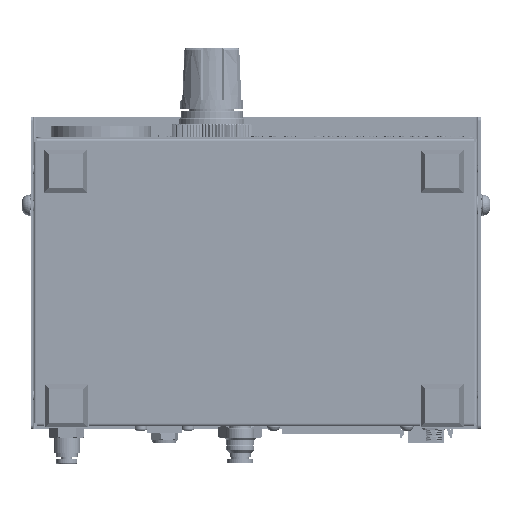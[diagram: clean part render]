
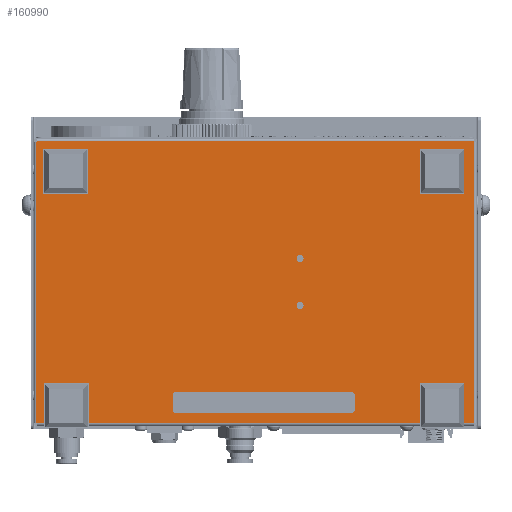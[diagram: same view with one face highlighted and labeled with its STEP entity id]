
A CAD part, front view. The second image highlights one B-rep face of the part: STEP entity #160990.
In plain terms, the highlighted planar face has unit normal (0, -1, 0).
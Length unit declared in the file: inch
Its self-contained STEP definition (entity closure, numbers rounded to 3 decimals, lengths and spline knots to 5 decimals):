
#751 = CARTESIAN_POINT ( 'NONE',  ( 0.64711, -1.19592, 0.39188 ) ) ;
#1124 = VERTEX_POINT ( 'NONE', #696270 ) ;
#4173 = VECTOR ( 'NONE', #156974, 39.37008 ) ;
#4738 = CARTESIAN_POINT ( 'NONE',  ( 0.64711, -1.19592, 0.32938 ) ) ;
#5738 = FACE_BOUND ( 'NONE', #31830, .T. ) ;
#15705 = CIRCLE ( 'NONE', #395931, 0.0625 ) ;
#17024 = LINE ( 'NONE', #697410, #170112 ) ;
#22176 = EDGE_CURVE ( 'NONE', #721568, #147781, #476853, .T. ) ;
#24965 = CARTESIAN_POINT ( 'NONE',  ( 3.74623, -1.19592, 3.25715 ) ) ;
#27795 = CARTESIAN_POINT ( 'NONE',  ( 0.64711, -1.19592, 0.32938 ) ) ;
#31830 = EDGE_LOOP ( 'NONE', ( #681289, #711473 ) ) ;
#33959 = CIRCLE ( 'NONE', #663347, 0.0625 ) ;
#38315 = EDGE_CURVE ( 'NONE', #86220, #77175, #15705, .T. ) ;
#41667 = DIRECTION ( 'NONE',  ( 0., 0., 1. ) ) ;
#43710 = ORIENTED_EDGE ( 'NONE', *, *, #451340, .T. ) ;
#45328 = CARTESIAN_POINT ( 'NONE',  ( 3.75095, -1.19592, 3.25243 ) ) ;
#63464 = DIRECTION ( 'NONE',  ( 0., 0., -1. ) ) ;
#64208 = DIRECTION ( 'NONE',  ( 0., -1., 0. ) ) ;
#71146 = VECTOR ( 'NONE', #110197, 39.37008 ) ;
#77175 = VERTEX_POINT ( 'NONE', #687086 ) ;
#80169 = CARTESIAN_POINT ( 'NONE',  ( 0.64711, -1.19592, 1.16796 ) ) ;
#80724 = AXIS2_PLACEMENT_3D ( 'NONE', #4738, #64208, #681485 ) ;
#86220 = VERTEX_POINT ( 'NONE', #751 ) ;
#106025 = CARTESIAN_POINT ( 'NONE',  ( 3.74623, -1.19592, -1.7704 ) ) ;
#107301 = DIRECTION ( 'NONE',  ( -1., 0., 0. ) ) ;
#110197 = DIRECTION ( 'NONE',  ( -1., 0., 0. ) ) ;
#117886 = CARTESIAN_POINT ( 'NONE',  ( -4.10338, -1.19592, 3.25243 ) ) ;
#122113 = CARTESIAN_POINT ( 'NONE',  ( -4.04747, -1.19592, 3.28471 ) ) ;
#130983 = EDGE_CURVE ( 'NONE', #537953, #654450, #555776, .T. ) ;
#132068 = FACE_BOUND ( 'NONE', #144017, .T. ) ;
#134922 = CARTESIAN_POINT ( 'NONE',  ( -4.10338, -1.19592, 3.25243 ) ) ;
#138595 = DIRECTION ( 'NONE',  ( 0., 0., -1. ) ) ;
#144017 = EDGE_LOOP ( 'NONE', ( #221788, #293353 ) ) ;
#147532 = CARTESIAN_POINT ( 'NONE',  ( 3.74623, -1.19592, 3.28471 ) ) ;
#147781 = VERTEX_POINT ( 'NONE', #452590 ) ;
#153469 = AXIS2_PLACEMENT_3D ( 'NONE', #232606, #414675, #292188 ) ;
#156974 = DIRECTION ( 'NONE',  ( 0., 0., -1. ) ) ;
#160990 = ADVANCED_FACE ( 'NONE', ( #132068, #5738, #299515 ), #578075, .T. ) ;
#163037 = CARTESIAN_POINT ( 'NONE',  ( -4.04747, -1.19592, 3.25715 ) ) ;
#166952 = CARTESIAN_POINT ( 'NONE',  ( -4.04747, -1.19592, -1.7704 ) ) ;
#170112 = VECTOR ( 'NONE', #422258, 39.37008 ) ;
#170197 = EDGE_CURVE ( 'NONE', #591017, #232369, #459794, .T. ) ;
#171121 = EDGE_CURVE ( 'NONE', #452400, #224200, #713570, .T. ) ;
#175143 = CARTESIAN_POINT ( 'NONE',  ( -4.04747, -1.19592, 3.25715 ) ) ;
#182371 = DIRECTION ( 'NONE',  ( 0., -1., 0. ) ) ;
#198022 = CARTESIAN_POINT ( 'NONE',  ( 3.75095, -1.19592, 3.25243 ) ) ;
#204287 = VERTEX_POINT ( 'NONE', #379835 ) ;
#210189 = DIRECTION ( 'NONE',  ( 1., 0., 0. ) ) ;
#216357 = CARTESIAN_POINT ( 'NONE',  ( -4.04747, -1.19592, 3.28471 ) ) ;
#221788 = ORIENTED_EDGE ( 'NONE', *, *, #38315, .F. ) ;
#223954 = ORIENTED_EDGE ( 'NONE', *, *, #652809, .T. ) ;
#224200 = VERTEX_POINT ( 'NONE', #175143 ) ;
#224814 = VECTOR ( 'NONE', #313149, 39.37008 ) ;
#229443 = ORIENTED_EDGE ( 'NONE', *, *, #691695, .T. ) ;
#229733 = ORIENTED_EDGE ( 'NONE', *, *, #130983, .T. ) ;
#231841 = EDGE_CURVE ( 'NONE', #1124, #243686, #361777, .T. ) ;
#232369 = VERTEX_POINT ( 'NONE', #702212 ) ;
#232606 = CARTESIAN_POINT ( 'NONE',  ( -4.10338, -1.19592, 3.28471 ) ) ;
#243686 = VERTEX_POINT ( 'NONE', #327224 ) ;
#251612 = EDGE_CURVE ( 'NONE', #204287, #721568, #626747, .T. ) ;
#272667 = EDGE_CURVE ( 'NONE', #243686, #1124, #33959, .T. ) ;
#277967 = EDGE_LOOP ( 'NONE', ( #459375, #229733, #223954, #343161, #535657, #732098, #634109, #705368, #43710, #294217, #368050, #229443 ) ) ;
#292188 = DIRECTION ( 'NONE',  ( 0., 0., -1. ) ) ;
#293353 = ORIENTED_EDGE ( 'NONE', *, *, #294762, .F. ) ;
#294217 = ORIENTED_EDGE ( 'NONE', *, *, #251612, .T. ) ;
#294762 = EDGE_CURVE ( 'NONE', #77175, #86220, #662288, .T. ) ;
#299515 = FACE_OUTER_BOUND ( 'NONE', #277967, .T. ) ;
#313149 = DIRECTION ( 'NONE',  ( 0., 0., 1. ) ) ;
#318739 = DIRECTION ( 'NONE',  ( 0., 0., 1. ) ) ;
#321643 = DIRECTION ( 'NONE',  ( 0., 0., -1. ) ) ;
#327224 = CARTESIAN_POINT ( 'NONE',  ( 0.64711, -1.19592, 1.23046 ) ) ;
#327834 = CARTESIAN_POINT ( 'NONE',  ( 3.74623, -1.19592, 3.28471 ) ) ;
#334532 = VECTOR ( 'NONE', #582224, 39.37008 ) ;
#343161 = ORIENTED_EDGE ( 'NONE', *, *, #479764, .T. ) ;
#346829 = CARTESIAN_POINT ( 'NONE',  ( -4.04747, -1.19592, -1.76568 ) ) ;
#350079 = EDGE_CURVE ( 'NONE', #371715, #591017, #621455, .T. ) ;
#361777 = CIRCLE ( 'NONE', #408999, 0.0625 ) ;
#362967 = DIRECTION ( 'NONE',  ( 0., -1., 0. ) ) ;
#368050 = ORIENTED_EDGE ( 'NONE', *, *, #22176, .T. ) ;
#371715 = VERTEX_POINT ( 'NONE', #564007 ) ;
#379835 = CARTESIAN_POINT ( 'NONE',  ( -4.04747, -1.19592, 3.25243 ) ) ;
#383612 = VECTOR ( 'NONE', #41667, 39.37008 ) ;
#386669 = LINE ( 'NONE', #657979, #480820 ) ;
#395931 = AXIS2_PLACEMENT_3D ( 'NONE', #27795, #533477, #321643 ) ;
#408999 = AXIS2_PLACEMENT_3D ( 'NONE', #80169, #362967, #637959 ) ;
#414675 = DIRECTION ( 'NONE',  ( 0., -1., 0. ) ) ;
#418518 = VECTOR ( 'NONE', #210189, 39.37008 ) ;
#422258 = DIRECTION ( 'NONE',  ( 1., 0., 0. ) ) ;
#426045 = EDGE_CURVE ( 'NONE', #232369, #452400, #602827, .T. ) ;
#450412 = CARTESIAN_POINT ( 'NONE',  ( 3.74623, -1.19592, -1.7704 ) ) ;
#451340 = EDGE_CURVE ( 'NONE', #224200, #204287, #491607, .T. ) ;
#452400 = VERTEX_POINT ( 'NONE', #24965 ) ;
#452590 = CARTESIAN_POINT ( 'NONE',  ( -4.0522, -1.19592, -1.76568 ) ) ;
#457280 = CARTESIAN_POINT ( 'NONE',  ( 3.74623, -1.19592, -1.76568 ) ) ;
#459375 = ORIENTED_EDGE ( 'NONE', *, *, #552034, .T. ) ;
#459794 = LINE ( 'NONE', #117886, #334532 ) ;
#460401 = LINE ( 'NONE', #122113, #601679 ) ;
#464079 = DIRECTION ( 'NONE',  ( 0., 0., -1. ) ) ;
#476853 = LINE ( 'NONE', #703655, #672039 ) ;
#479764 = EDGE_CURVE ( 'NONE', #689740, #371715, #17024, .T. ) ;
#480820 = VECTOR ( 'NONE', #613257, 39.37008 ) ;
#491607 = LINE ( 'NONE', #216357, #4173 ) ;
#533477 = DIRECTION ( 'NONE',  ( 0., -1., 0. ) ) ;
#535657 = ORIENTED_EDGE ( 'NONE', *, *, #350079, .T. ) ;
#537953 = VERTEX_POINT ( 'NONE', #166952 ) ;
#549375 = VERTEX_POINT ( 'NONE', #346829 ) ;
#552034 = EDGE_CURVE ( 'NONE', #549375, #537953, #460401, .T. ) ;
#555776 = LINE ( 'NONE', #106025, #418518 ) ;
#564007 = CARTESIAN_POINT ( 'NONE',  ( 3.75095, -1.19592, -1.76568 ) ) ;
#578075 = PLANE ( 'NONE',  #153469 ) ;
#582224 = DIRECTION ( 'NONE',  ( -1., 0., 0. ) ) ;
#591017 = VERTEX_POINT ( 'NONE', #198022 ) ;
#600995 = LINE ( 'NONE', #147532, #729948 ) ;
#601679 = VECTOR ( 'NONE', #464079, 39.37008 ) ;
#602827 = LINE ( 'NONE', #327834, #224814 ) ;
#613257 = DIRECTION ( 'NONE',  ( 1., 0., 0. ) ) ;
#621455 = LINE ( 'NONE', #45328, #383612 ) ;
#626747 = LINE ( 'NONE', #134922, #71146 ) ;
#628523 = CARTESIAN_POINT ( 'NONE',  ( 0.64711, -1.19592, 1.16796 ) ) ;
#634109 = ORIENTED_EDGE ( 'NONE', *, *, #426045, .T. ) ;
#637959 = DIRECTION ( 'NONE',  ( 0., 0., -1. ) ) ;
#652809 = EDGE_CURVE ( 'NONE', #654450, #689740, #600995, .T. ) ;
#654450 = VERTEX_POINT ( 'NONE', #450412 ) ;
#657979 = CARTESIAN_POINT ( 'NONE',  ( -4.10338, -1.19592, -1.76568 ) ) ;
#662288 = CIRCLE ( 'NONE', #80724, 0.0625 ) ;
#663347 = AXIS2_PLACEMENT_3D ( 'NONE', #628523, #182371, #63464 ) ;
#672039 = VECTOR ( 'NONE', #138595, 39.37008 ) ;
#679848 = VECTOR ( 'NONE', #107301, 39.37008 ) ;
#681289 = ORIENTED_EDGE ( 'NONE', *, *, #272667, .F. ) ;
#681485 = DIRECTION ( 'NONE',  ( 0., 0., -1. ) ) ;
#687086 = CARTESIAN_POINT ( 'NONE',  ( 0.64711, -1.19592, 0.26688 ) ) ;
#689740 = VERTEX_POINT ( 'NONE', #457280 ) ;
#691695 = EDGE_CURVE ( 'NONE', #147781, #549375, #386669, .T. ) ;
#696270 = CARTESIAN_POINT ( 'NONE',  ( 0.64711, -1.19592, 1.10546 ) ) ;
#697410 = CARTESIAN_POINT ( 'NONE',  ( -4.10338, -1.19592, -1.76568 ) ) ;
#702212 = CARTESIAN_POINT ( 'NONE',  ( 3.74623, -1.19592, 3.25243 ) ) ;
#703655 = CARTESIAN_POINT ( 'NONE',  ( -4.0522, -1.19592, -1.76568 ) ) ;
#705368 = ORIENTED_EDGE ( 'NONE', *, *, #171121, .T. ) ;
#711473 = ORIENTED_EDGE ( 'NONE', *, *, #231841, .F. ) ;
#713570 = LINE ( 'NONE', #163037, #679848 ) ;
#721568 = VERTEX_POINT ( 'NONE', #726617 ) ;
#726617 = CARTESIAN_POINT ( 'NONE',  ( -4.0522, -1.19592, 3.25243 ) ) ;
#729948 = VECTOR ( 'NONE', #318739, 39.37008 ) ;
#732098 = ORIENTED_EDGE ( 'NONE', *, *, #170197, .T. ) ;
